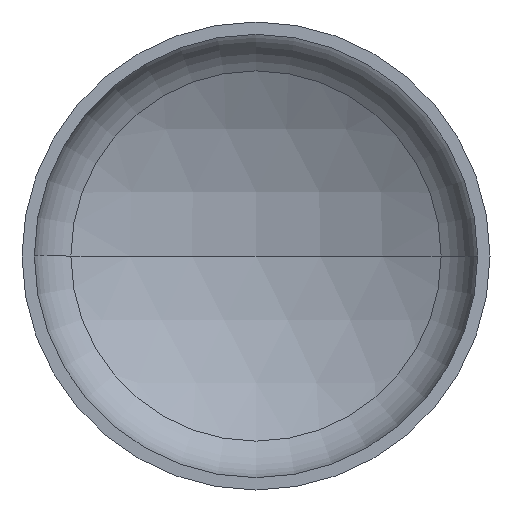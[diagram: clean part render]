
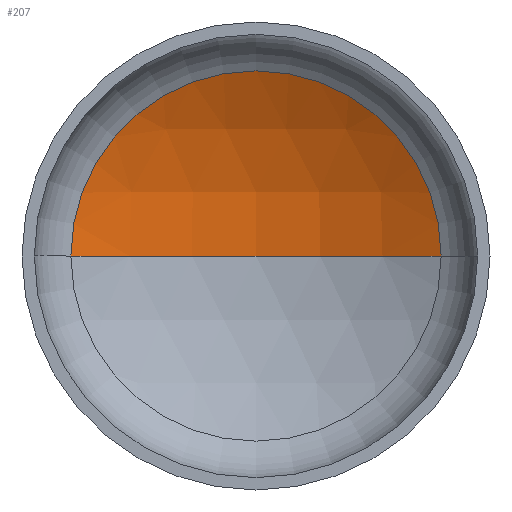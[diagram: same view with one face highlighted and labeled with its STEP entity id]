
A CAD part, front view. The second image highlights one B-rep face of the part: STEP entity #207.
In plain terms, the highlighted spherical face has radius 1760 mm.
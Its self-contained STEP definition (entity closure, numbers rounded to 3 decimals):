
#6 = ORIENTED_EDGE ( 'NONE', *, *, #123, .T. ) ;
#8 = EDGE_LOOP ( 'NONE', ( #74, #49, #6 ) ) ;
#31 = VERTEX_POINT ( 'NONE', #252 ) ;
#35 = AXIS2_PLACEMENT_3D ( 'NONE', #184, #216, #44 ) ;
#36 = DIRECTION ( 'NONE',  ( 1., 0., 0. ) ) ;
#43 = AXIS2_PLACEMENT_3D ( 'NONE', #258, #256, #253 ) ;
#44 = DIRECTION ( 'NONE',  ( -1., 0., 0. ) ) ;
#46 = SPHERICAL_SURFACE ( 'NONE', #35, 1760. ) ;
#47 = VERTEX_POINT ( 'NONE', #262 ) ;
#49 = ORIENTED_EDGE ( 'NONE', *, *, #157, .T. ) ;
#53 = AXIS2_PLACEMENT_3D ( 'NONE', #202, #206, #220 ) ;
#54 = DIRECTION ( 'NONE',  ( 0., -1., 0. ) ) ;
#55 = AXIS2_PLACEMENT_3D ( 'NONE', #118, #54, #36 ) ;
#72 = CIRCLE ( 'NONE', #53, 1760. ) ;
#74 = ORIENTED_EDGE ( 'NONE', *, *, #183, .F. ) ;
#118 = CARTESIAN_POINT ( 'NONE',  ( 0., 415.546, 0. ) ) ;
#122 = VERTEX_POINT ( 'NONE', #326 ) ;
#123 = EDGE_CURVE ( 'NONE', #47, #31, #381, .T. ) ;
#157 = EDGE_CURVE ( 'NONE', #122, #47, #72, .T. ) ;
#183 = EDGE_CURVE ( 'NONE', #122, #31, #318, .T. ) ;
#184 = CARTESIAN_POINT ( 'NONE',  ( 0., -1114.34, 0. ) ) ;
#202 = CARTESIAN_POINT ( 'NONE',  ( 0., -1114.34, 0. ) ) ;
#206 = DIRECTION ( 'NONE',  ( 0., 0., -1. ) ) ;
#207 = ADVANCED_FACE ( 'NONE', ( #369 ), #46, .F. ) ;
#216 = DIRECTION ( 'NONE',  ( 0., 0., -1. ) ) ;
#220 = DIRECTION ( 'NONE',  ( -1., 0., 0. ) ) ;
#252 = CARTESIAN_POINT ( 'NONE',  ( -870.085, 415.546, 0. ) ) ;
#253 = DIRECTION ( 'NONE',  ( 1., 0., 0. ) ) ;
#256 = DIRECTION ( 'NONE',  ( 0., 0., 1. ) ) ;
#258 = CARTESIAN_POINT ( 'NONE',  ( 0., -1114.34, 0. ) ) ;
#262 = CARTESIAN_POINT ( 'NONE',  ( 870.085, 415.546, 0. ) ) ;
#318 = CIRCLE ( 'NONE', #43, 1760. ) ;
#326 = CARTESIAN_POINT ( 'NONE',  ( 0., 645.66, 0. ) ) ;
#369 = FACE_OUTER_BOUND ( 'NONE', #8, .T. ) ;
#381 = CIRCLE ( 'NONE', #55, 870.085 ) ;
